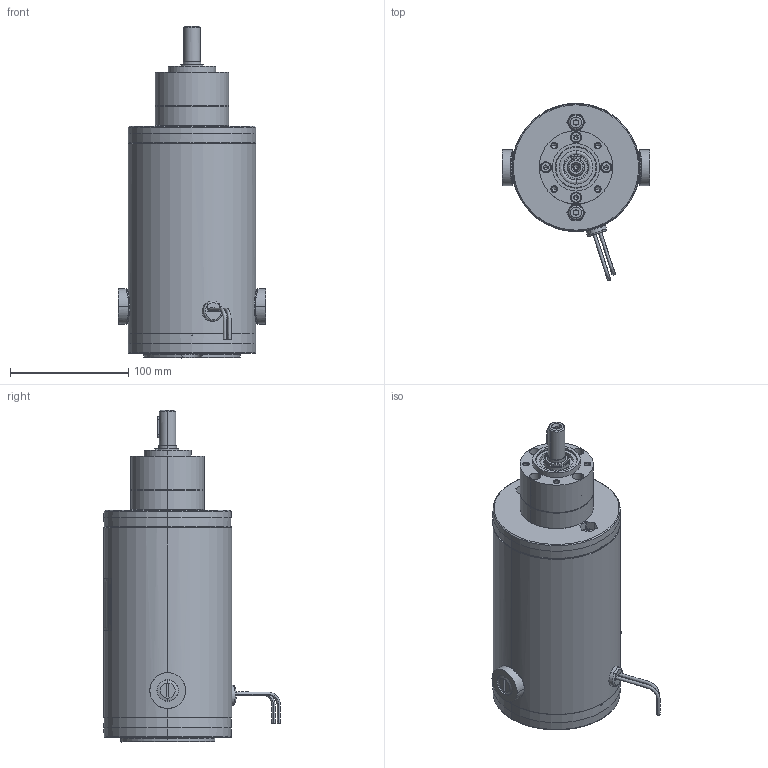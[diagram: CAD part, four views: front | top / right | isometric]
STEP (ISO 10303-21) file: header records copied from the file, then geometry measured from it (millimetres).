
FILE_DESCRIPTION (( 'STEP AP214' ), '1' );
FILE_NAME ('PM10816-PL6200i_1S.STEP', '2013-05-02T12:03:45', ( '' ), ( '' ), 'SwSTEP 2.0', 'SolidWorks 2013', '' );
FILE_SCHEMA (( 'AUTOMOTIVE_DESIGN' ));
Length unit declared in the file: inch
Products named in the file (1): PM10816-PL6200i_1S
Bounding box: 124.21 x 149.45 x 280.46 mm (x, y, z)
Surface area: 269969.5 mm2 (no closed solid volume)
Topology: 0 solids, 50 shells, 2741 faces, 6903 edges, 4400 vertices
Faces by surface type: plane 861, cylinder 742, cone 465, bspline 458, torus 183, sphere 32
Entity records: 147225 total; most frequent: CARTESIAN_POINT 47827, ORIENTED_EDGE 13662, DIRECTION 12598, EDGE_CURVE 6833, AXIS2_PLACEMENT_3D 5097, VERTEX_POINT 4384, EDGE_LOOP 3043, CIRCLE 2813
